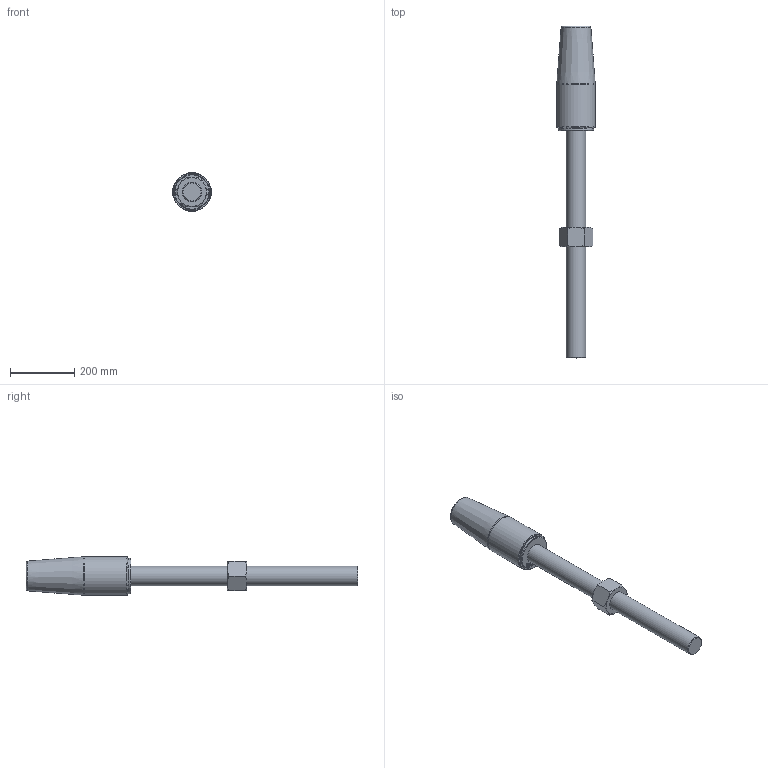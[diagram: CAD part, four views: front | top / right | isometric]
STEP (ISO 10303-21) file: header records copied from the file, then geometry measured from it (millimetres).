
FILE_DESCRIPTION(/* description */ (''),/* implementation_level */ '2;1');
FILE_NAME(/* name */ 'D:\Clienti\Redaelli (inventor)\CYB\STEP\Arrangement\CYB040 52 061 0.stp',/* time_stamp */ '2021-05-08T14:37:37+02:00',/* author */ ('fabri'),/* organization */ (''),/* preprocessor_version */ 'ST-DEVELOPER v16.13',/* originating_system */ 'Autodesk Inventor 2018',/* authorisation */ '');
FILE_SCHEMA (('AUTOMOTIVE_DESIGN { 1 0 10303 214 3 1 1 }'));
Length unit declared in the file: millimetre
Products named in the file (5): CYB012-52-061-0; RNT040 41 051 0_ROD; UNI 5587 - M60 x 4; CCY021-51-061-0_BUSH; CCY021-51-061-0
Assembly tree (4 placements, depth 2):
  CYB012-52-061-0
    RNT040 41 051 0_ROD
    UNI 5587 - M60 x 4
    CCY021-51-061-0_BUSH
    CCY021-51-061-0
Bounding box: 119.61 x 1030 x 119.61 mm (x, y, z)
Volume: 6038219.6 mm3; surface area: 379925.9 mm2
Topology: 4 solids, 4 shells, 678 faces, 1787 edges, 1184 vertices
Faces by surface type: bspline 332, plane 315, cone 19, cylinder 8, torus 4
Full cylindrical faces by diameter (mm): 55.67 x2, 60 x1, 61 x1, 80 x1, 90 x1, 110 x1, 120 x1
Entity records: 22569 total; most frequent: CARTESIAN_POINT 8016, ORIENTED_EDGE 3534, DIRECTION 1831, EDGE_CURVE 1767, VERTEX_POINT 1183, LINE 1039, VECTOR 1039, EDGE_LOOP 768
